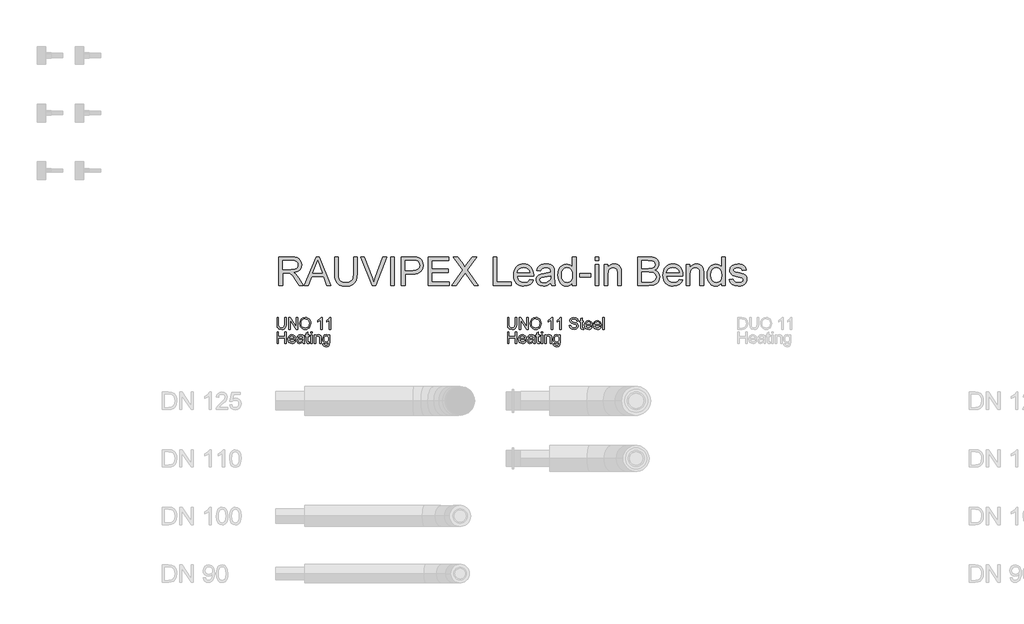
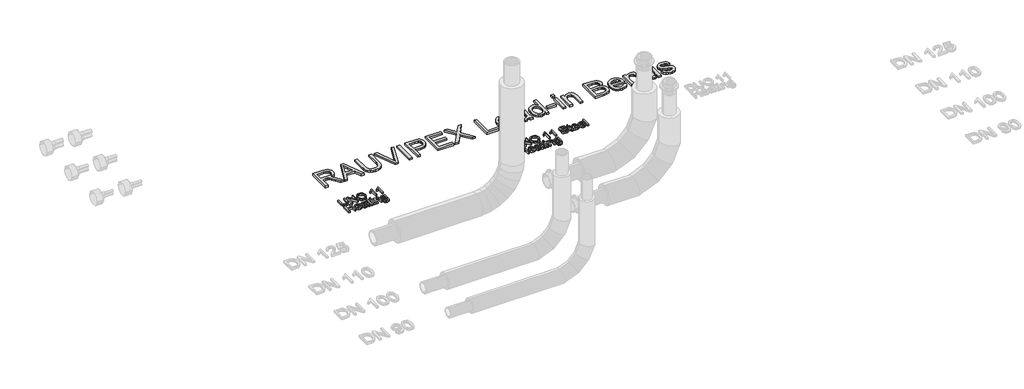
# One storey, part 40 of 44: 3 proxies.
"""IFC4 building model written with IfcOpenShell, lengths in millimetres."""

from ifc_helpers import new_model, si_unit, origin, origin_with_axes, place, context, project, spatial, polyline, outline, extrude, element, save

model = new_model("IFC4")

# Units and contexts
model_context = context("Model", 3, world=origin())
ifc_project = project(units=[si_unit("LENGTHUNIT", "METRE", prefix="MILLI")], contexts=[model_context])

# Site, building, storey
site = spatial("IfcSite", under=ifc_project)
building = spatial("IfcBuilding", under=site)
storey = spatial("IfcBuildingStorey", under=building, Name="REHAU Starting view", Elevation=0.0)

# Proxies
placement = place(None, origin())
element("IfcBuildingElementProxy", 1, Name="100", ObjectType="100", at=placement, inside=storey, context=model_context, shape_type="SweptSolid", body=[
    extrude(outline(polyline([(34076.9118625, 6222.431128), (34089.4689012, 6222.431128), (34089.4689012, 6164.477451), (34086.0598614, 6140.4547567), (34073.7726028, 6125.9847316), (34063.5086951, 6121.8000739), (34050.4734097, 6120.405188), (34027.529836, 6125.2612303), (34019.8901532, 6131.2055902), (34014.8011189, 6139.3265853), (34010.9874089, 6164.477451), (34010.9874089, 6222.431128), (34023.5444477, 6222.431128), (34023.5444477, 6164.9189094), (34026.0215198, 6145.7767829), (34034.5318566, 6136.2976902), (34049.2961874, 6132.9622268), (34062.067824, 6134.6115644), (34070.5597667, 6139.5595772), (34075.3238385, 6149.1980855), (34076.9118625, 6164.9189094), (34076.9118625, 6222.431128)])), origin_with_axes(), (0.0, 0.0, 1.0), 20.0),
    extrude(outline(polyline([(34111.4437191, 6121.9748178), (34111.4437191, 6222.431128), (34124.8836746, 6222.431128), (34177.3681726, 6142.8459897), (34177.3681726, 6222.431128), (34189.9252114, 6222.431128), (34189.9252114, 6121.9748178), (34176.4852558, 6121.9748178), (34124.0007578, 6201.5844816), (34124.0007578, 6121.9748178), (34111.4437191, 6121.9748178)])), origin_with_axes(), (0.0, 0.0, 1.0), 20.0),
    extrude(outline(polyline([(34207.1911397, 6170.8785977), (34210.5388658, 6193.0925389), (34220.5820443, 6209.8986147), (34235.9165921, 6220.4752221), (34255.1384264, 6224.0007578), (34268.3147332, 6222.3452889), (34280.1298766, 6217.3788819), (34289.9400631, 6209.4510249), (34297.1014993, 6198.9112058), (34301.479295, 6186.2683279), (34302.9385603, 6172.0312947), (34301.402653, 6157.6041891), (34296.794931, 6144.7835015), (34289.369846, 6134.2252883), (34279.3818499, 6126.5856055), (34267.667874, 6121.9502924), (34255.06485, 6120.405188), (34241.6862081, 6122.1127736), (34229.8036197, 6127.2355304), (34220.0179586, 6135.3105402), (34212.9300988, 6145.8748848), (34207.1911397, 6170.8785977)]), holes=[polyline([(34219.7481785, 6170.7559704), (34222.2589731, 6155.0412778), (34229.7913569, 6143.0667189), (34241.1129253, 6135.4883498), (34254.9912736, 6132.9622268), (34269.071957, 6135.5128753), (34280.4119195, 6143.1648208), (34287.889121, 6155.5072617), (34290.3815215, 6172.1293965), (34286.1140904, 6192.8534156), (34273.6428907, 6206.575414), (34255.2120028, 6211.4437191), (34241.7046022, 6209.0984714), (34230.2205526, 6202.0627282), (34222.366272, 6189.5455433), (34219.7481785, 6170.7559704)])]), origin_with_axes(), (0.0, 0.0, 1.0), 20.0),
    extrude(outline(polyline([(34401.8252406, 6121.9748178), (34389.2682018, 6121.9748178), (34389.2682018, 6200.2601064), (34377.3733507, 6191.7865578), (34364.1541243, 6185.4467247), (34364.1541243, 6197.3170505), (34382.5604868, 6209.0647488), (34393.7318367, 6222.431128), (34401.8252406, 6222.431128), (34401.8252406, 6121.9748178)])), origin_with_axes(), (0.0, 0.0, 1.0), 20.0),
    extrude(outline(polyline([(34478.7371031, 6121.9748178), (34466.1800643, 6121.9748178), (34466.1800643, 6200.2601064), (34454.2852131, 6191.7865578), (34441.0659868, 6185.4467247), (34441.0659868, 6197.3170505), (34459.4723492, 6209.0647488), (34470.6436992, 6222.431128), (34478.7371031, 6222.431128), (34478.7371031, 6121.9748178)])), origin_with_axes(), (0.0, 0.0, 1.0), 20.0),
    extrude(outline(polyline([(34010.9874089, 6000.0), (34010.9874089, 6100.4563101), (34023.5444477, 6100.4563101), (34023.5444477, 6059.6459342), (34076.9118625, 6059.6459342), (34076.9118625, 6100.4563101), (34089.4689012, 6100.4563101), (34089.4689012, 6000.0), (34076.9118625, 6000.0), (34076.9118625, 6047.0888954), (34023.5444477, 6047.0888954), (34023.5444477, 6000.0), (34010.9874089, 6000.0)])), origin_with_axes(), (0.0, 0.0, 1.0), 20.0),
    extrude(outline(polyline([(34161.5247213, 6021.9748178), (34173.8365055, 6020.405188), (34169.4004617, 6011.1284304), (34162.321799, 6004.1938547), (34152.7599328, 5999.8712413), (34140.8742787, 5998.4303702), (34126.1406048, 6000.9166393), (34114.803708, 6008.3754468), (34107.5748268, 6020.3224146), (34105.1651997, 6036.2731647), (34107.5993522, 6052.7604095), (34114.9018098, 6065.0905877), (34126.0854225, 6072.7793214), (34140.1630402, 6075.3422326), (34153.8022651, 6072.7854527), (34164.7007692, 6065.1151131), (34171.846877, 6052.8094604), (34174.2289129, 6036.3467411), (34174.1553365, 6032.9622268), (34117.7222385, 6032.9622268), (34119.8958079, 6023.5628418), (34124.9449883, 6016.6527916), (34132.2321175, 6012.4037546), (34141.1195333, 6010.9874089), (34153.4313175, 6013.6116338), (34161.5247213, 6021.9748178)]), holes=[polyline([(34117.7222385, 6045.5192655), (34161.6718741, 6045.5192655), (34156.6441535, 6056.8990819), (34149.3233018, 6061.3136659), (34140.1139892, 6062.7851938), (34124.6506827, 6058.088567), (34119.7854433, 6052.5979283), (34117.7222385, 6045.5192655)])]), origin_with_axes(), (0.0, 0.0, 1.0), 20.0),
    extrude(outline(polyline([(34233.8748471, 6009.4177791), (34221.697953, 6000.9074423), (34208.2457347, 5998.4303702), (34197.7519008, 5999.9202922), (34190.0110505, 6004.3900585), (34185.2377816, 6011.1774813), (34183.646692, 6019.6203731), (34186.0501877, 6029.5531869), (34192.3654953, 6036.7636741), (34201.157875, 6040.8839524), (34212.0226566, 6042.7724133), (34233.8012707, 6047.0888954), (34233.8748471, 6049.8847985), (34230.4167563, 6059.1554248), (34216.5353424, 6062.7851938), (34203.8311508, 6060.3694354), (34197.7733606, 6051.7977849), (34185.2163218, 6053.3674148), (34190.6487126, 6065.6301479), (34201.5870706, 6072.8161096), (34218.1540231, 6075.3422326), (34233.372075, 6073.1104152), (34241.968251, 6067.5063461), (34245.8187492, 6058.9837466), (34246.4318858, 6047.9963376), (34246.4318858, 6032.3736156), (34247.069548, 6010.5582133), (34249.5711455, 6000.0), (34237.0141068, 6000.0), (34233.8748471, 6009.4177791)]), holes=[polyline([(34233.8748471, 6034.5318566), (34213.6168119, 6030.6813584), (34202.8133439, 6028.6457447), (34197.9205134, 6025.3348067), (34196.2037308, 6020.5032899), (34199.9438644, 6013.7097357), (34210.9190106, 6010.9874089), (34223.6232021, 6013.9917785), (34231.8147079, 6021.2635793), (34233.8012707, 6030.975664), (34233.8748471, 6034.5318566)])]), origin_with_axes(), (0.0, 0.0, 1.0), 20.0),
    extrude(outline(polyline([(34290.3815215, 6010.4723741), (34291.9511514, 5999.632118), (34282.5578978, 5998.4303702), (34272.0364727, 6000.5150348), (34266.7880229, 6005.9842138), (34265.267444, 6020.2335097), (34265.267444, 6061.215564), (34255.8496649, 6061.215564), (34255.8496649, 6073.7726028), (34265.267444, 6073.7726028), (34265.267444, 6091.7007187), (34277.8244828, 6099.082884), (34277.8244828, 6073.7726028), (34290.3815215, 6073.7726028), (34290.3815215, 6061.215564), (34277.8244828, 6061.215564), (34277.8244828, 6020.6013917), (34278.4866703, 6014.1266686), (34280.6326487, 6011.8335375), (34284.9123425, 6010.9874089), (34290.3815215, 6010.4723741)])), origin_with_axes(), (0.0, 0.0, 1.0), 20.0),
    extrude(outline(polyline([(34302.9385603, 6087.8992714), (34302.9385603, 6100.4563101), (34315.4955991, 6100.4563101), (34315.4955991, 6087.8992714), (34302.9385603, 6087.8992714)])), origin_with_axes(), (0.0, 0.0, 1.0), 20.0),
    extrude(outline(polyline([(34302.9385603, 6000.0), (34302.9385603, 6073.7726028), (34315.4955991, 6073.7726028), (34315.4955991, 6000.0), (34302.9385603, 6000.0)])), origin_with_axes(), (0.0, 0.0, 1.0), 20.0),
    extrude(outline(polyline([(34334.3311572, 6000.0), (34334.3311572, 6073.7726028), (34346.888196, 6073.7726028), (34346.888196, 6063.4719069), (34356.4899161, 6072.3746512), (34369.5987778, 6075.3422326), (34381.4568408, 6072.9509996), (34389.5502447, 6066.6724803), (34393.3149038, 6057.4386422), (34393.9770914, 6045.2985363), (34393.9770914, 6000.0), (34381.4200526, 6000.0), (34381.4200526, 6043.6062792), (34379.9730501, 6054.7163154), (34374.8594904, 6060.5901646), (34366.2387889, 6062.7851938), (34352.6148924, 6057.8555751), (34348.3198701, 6050.712533), (34346.888196, 6039.1426443), (34346.888196, 6000.0), (34334.3311572, 6000.0)])), origin_with_axes(), (0.0, 0.0, 1.0), 20.0),
    extrude(outline(polyline([(34408.10376, 5993.7214806), (34420.6607988, 5992.1518508), (34424.7320262, 5985.5299749), (34436.9211829, 5982.7340717), (34449.7725273, 5985.8978569), (34455.9038939, 5994.7760757), (34456.7622852, 6009.4177791), (34447.9208546, 6002.3544448), (34437.1419121, 6000.0), (34424.1955316, 6002.7407209), (34414.5416949, 6010.9628835), (34408.5360213, 6023.0171502), (34406.5341301, 6037.2541834), (34410.127111, 6056.7151409), (34420.5259087, 6070.4861903), (34436.5287755, 6075.3422326), (34447.7307822, 6072.5953804), (34456.7622852, 6064.3548237), (34456.7622852, 6073.7726028), (34469.319324, 6073.7726028), (34469.319324, 6010.0799667), (34465.8857587, 5985.6893904), (34455.0087144, 5974.3463622), (34436.6759283, 5970.1770329), (34424.9926092, 5971.6454952), (34415.7924937, 5976.0508821), (34409.8910533, 5983.4054563), (34408.10376, 5993.7214806)]), holes=[polyline([(34419.0911689, 6038.1125747), (34420.4308725, 6026.5948026), (34424.4499833, 6018.6761426), (34430.4924451, 6014.0868147), (34437.9022016, 6012.5570388), (34445.2567758, 6014.0776177), (34451.3298944, 6018.6393544), (34455.4041875, 6026.4568468), (34456.7622852, 6037.7446927), (34455.3643336, 6048.6309341), (34451.1704789, 6056.4698863), (34445.0084555, 6061.2063669), (34437.7059979, 6062.7851938), (34430.5353646, 6061.2308924), (34424.5235597, 6056.5679881), (34420.4492666, 6048.8455319), (34419.0911689, 6038.1125747)])]), origin_with_axes(), (0.0, 0.0, 1.0), 20.0),
])
element("IfcBuildingElementProxy", 2, Name="100", ObjectType="100", at=placement, inside=storey, context=model_context, shape_type="SweptSolid", body=[
    extrude(outline(polyline([(36076.9118625, 6222.431128), (36089.4689012, 6222.431128), (36089.4689012, 6164.477451), (36086.0598614, 6140.4547567), (36073.7726028, 6125.9847316), (36063.5086951, 6121.8000739), (36050.4734097, 6120.405188), (36027.529836, 6125.2612303), (36019.8901532, 6131.2055902), (36014.8011189, 6139.3265853), (36010.9874089, 6164.477451), (36010.9874089, 6222.431128), (36023.5444477, 6222.431128), (36023.5444477, 6164.9189094), (36026.0215198, 6145.7767829), (36034.5318566, 6136.2976902), (36049.2961874, 6132.9622268), (36062.067824, 6134.6115644), (36070.5597667, 6139.5595772), (36075.3238385, 6149.1980855), (36076.9118625, 6164.9189094), (36076.9118625, 6222.431128)])), origin_with_axes(), (0.0, 0.0, 1.0), 20.0),
    extrude(outline(polyline([(36111.4437191, 6121.9748178), (36111.4437191, 6222.431128), (36124.8836746, 6222.431128), (36177.3681726, 6142.8459897), (36177.3681726, 6222.431128), (36189.9252114, 6222.431128), (36189.9252114, 6121.9748178), (36176.4852558, 6121.9748178), (36124.0007578, 6201.5844816), (36124.0007578, 6121.9748178), (36111.4437191, 6121.9748178)])), origin_with_axes(), (0.0, 0.0, 1.0), 20.0),
    extrude(outline(polyline([(36207.1911397, 6170.8785977), (36210.5388658, 6193.0925389), (36220.5820443, 6209.8986147), (36235.9165921, 6220.4752221), (36255.1384264, 6224.0007578), (36268.3147332, 6222.3452889), (36280.1298766, 6217.3788819), (36289.9400631, 6209.4510249), (36297.1014993, 6198.9112058), (36301.479295, 6186.2683279), (36302.9385603, 6172.0312947), (36301.402653, 6157.6041891), (36296.794931, 6144.7835015), (36289.369846, 6134.2252883), (36279.3818499, 6126.5856055), (36267.667874, 6121.9502924), (36255.06485, 6120.405188), (36241.6862081, 6122.1127736), (36229.8036197, 6127.2355304), (36220.0179586, 6135.3105402), (36212.9300988, 6145.8748848), (36207.1911397, 6170.8785977)]), holes=[polyline([(36219.7481785, 6170.7559704), (36222.2589731, 6155.0412778), (36229.7913569, 6143.0667189), (36241.1129253, 6135.4883498), (36254.9912736, 6132.9622268), (36269.071957, 6135.5128753), (36280.4119195, 6143.1648208), (36287.889121, 6155.5072617), (36290.3815215, 6172.1293965), (36286.1140904, 6192.8534156), (36273.6428907, 6206.575414), (36255.2120028, 6211.4437191), (36241.7046022, 6209.0984714), (36230.2205526, 6202.0627282), (36222.366272, 6189.5455433), (36219.7481785, 6170.7559704)])]), origin_with_axes(), (0.0, 0.0, 1.0), 20.0),
    extrude(outline(polyline([(36401.8252406, 6121.9748178), (36389.2682018, 6121.9748178), (36389.2682018, 6200.2601064), (36377.3733507, 6191.7865578), (36364.1541243, 6185.4467247), (36364.1541243, 6197.3170505), (36382.5604868, 6209.0647488), (36393.7318367, 6222.431128), (36401.8252406, 6222.431128), (36401.8252406, 6121.9748178)])), origin_with_axes(), (0.0, 0.0, 1.0), 20.0),
    extrude(outline(polyline([(36478.7371031, 6121.9748178), (36466.1800643, 6121.9748178), (36466.1800643, 6200.2601064), (36454.2852131, 6191.7865578), (36441.0659868, 6185.4467247), (36441.0659868, 6197.3170505), (36459.4723492, 6209.0647488), (36470.6436992, 6222.431128), (36478.7371031, 6222.431128), (36478.7371031, 6121.9748178)])), origin_with_axes(), (0.0, 0.0, 1.0), 20.0),
    extrude(outline(polyline([(36547.8008163, 6156.5066745), (36560.3578551, 6156.5066745), (36564.404557, 6143.937373), (36574.2883199, 6135.9911219), (36589.3469563, 6132.9622268), (36602.4680808, 6135.2553579), (36610.9416294, 6141.5584027), (36613.7252698, 6149.9829004), (36611.6406052, 6157.8187869), (36603.1057429, 6163.5209578), (36584.8220077, 6168.3156865), (36565.140321, 6174.5083668), (36554.4594804, 6183.8525694), (36550.940076, 6196.3360318), (36555.2933463, 6210.5485396), (36568.0098006, 6220.5794553), (36586.6246295, 6224.0007578), (36606.4902572, 6220.4200398), (36619.7340091, 6209.8986147), (36624.7126787, 6194.1777908), (36612.15564, 6194.1777908), (36609.8502461, 6201.6703207), (36605.0432547, 6207.0781861), (36587.1151388, 6211.4437191), (36569.137972, 6207.127237), (36563.4971147, 6196.7039138), (36567.4947658, 6187.9973732), (36587.9980556, 6180.9830899), (36610.2181281, 6174.680045), (36622.3704967, 6164.5019765), (36626.2823086, 6150.3017315), (36621.7818855, 6135.2798833), (36608.8324393, 6124.3169999), (36589.8374656, 6120.405188), (36567.4089266, 6124.6235682), (36553.2209443, 6137.3277598), (36547.8008163, 6156.5066745)])), origin_with_axes(), (0.0, 0.0, 1.0), 20.0),
    extrude(outline(polyline([(36670.2319443, 6132.447192), (36671.8015741, 6121.6069358), (36662.4083205, 6120.405188), (36651.8868955, 6122.4898526), (36646.6384457, 6127.9590316), (36645.1178667, 6142.2083276), (36645.1178667, 6183.1903818), (36635.7000877, 6183.1903818), (36635.7000877, 6195.7474206), (36645.1178667, 6195.7474206), (36645.1178667, 6213.6755365), (36657.6749055, 6221.0577019), (36657.6749055, 6195.7474206), (36670.2319443, 6195.7474206), (36670.2319443, 6183.1903818), (36657.6749055, 6183.1903818), (36657.6749055, 6142.5762096), (36658.3370931, 6136.1014865), (36660.4830714, 6133.8083554), (36664.7627653, 6132.9622268), (36670.2319443, 6132.447192)])), origin_with_axes(), (0.0, 0.0, 1.0), 20.0),
    extrude(outline(polyline([(36734.4396152, 6143.9496357), (36746.7513993, 6142.3800058), (36742.3153556, 6133.1032482), (36735.2366928, 6126.1686726), (36725.6748266, 6121.8460591), (36713.7891725, 6120.405188), (36699.0554986, 6122.8914571), (36687.7186018, 6130.3502646), (36680.4897206, 6142.2972324), (36678.0800935, 6158.2479826), (36680.514246, 6174.7352273), (36687.8167036, 6187.0654055), (36699.0003163, 6194.7541392), (36713.077934, 6197.3170505), (36726.717159, 6194.7602706), (36737.6156631, 6187.089931), (36744.7617708, 6174.7842783), (36747.1438067, 6158.321559), (36747.0702303, 6154.9370446), (36690.6371323, 6154.9370446), (36692.8107017, 6145.5376596), (36697.8598821, 6138.6276095), (36705.1470113, 6134.3785724), (36714.0344272, 6132.9622268), (36726.3462113, 6135.5864517), (36734.4396152, 6143.9496357)]), holes=[polyline([(36690.6371323, 6167.4940834), (36734.586768, 6167.4940834), (36729.5590474, 6178.8738998), (36722.2381957, 6183.2884837), (36713.0288831, 6184.7600117), (36697.5655765, 6180.0633849), (36692.7003371, 6174.5727461), (36690.6371323, 6167.4940834)])]), origin_with_axes(), (0.0, 0.0, 1.0), 20.0),
    extrude(outline(polyline([(36811.3514776, 6143.9496357), (36823.6632617, 6142.3800058), (36819.227218, 6133.1032482), (36812.1485553, 6126.1686726), (36802.5866891, 6121.8460591), (36790.701035, 6120.405188), (36775.9673611, 6122.8914571), (36764.6304642, 6130.3502646), (36757.401583, 6142.2972324), (36754.991956, 6158.2479826), (36757.4261085, 6174.7352273), (36764.7285661, 6187.0654055), (36775.9121788, 6194.7541392), (36789.9897964, 6197.3170505), (36803.6290214, 6194.7602706), (36814.5275255, 6187.089931), (36821.6736333, 6174.7842783), (36824.0556692, 6158.321559), (36823.9820928, 6154.9370446), (36767.5489947, 6154.9370446), (36769.7225642, 6145.5376596), (36774.7717446, 6138.6276095), (36782.0588738, 6134.3785724), (36790.9462896, 6132.9622268), (36803.2580737, 6135.5864517), (36811.3514776, 6143.9496357)]), holes=[polyline([(36767.5489947, 6167.4940834), (36811.4986304, 6167.4940834), (36806.4709098, 6178.8738998), (36799.1500581, 6183.2884837), (36789.9407455, 6184.7600117), (36774.477439, 6180.0633849), (36769.6121996, 6174.5727461), (36767.5489947, 6167.4940834)])]), origin_with_axes(), (0.0, 0.0, 1.0), 20.0),
    extrude(outline(polyline([(36836.612708, 6121.9748178), (36836.612708, 6222.431128), (36849.1697467, 6222.431128), (36849.1697467, 6121.9748178), (36836.612708, 6121.9748178)])), origin_with_axes(), (0.0, 0.0, 1.0), 20.0),
    extrude(outline(polyline([(36010.9874089, 6000.0), (36010.9874089, 6100.4563101), (36023.5444477, 6100.4563101), (36023.5444477, 6059.6459342), (36076.9118625, 6059.6459342), (36076.9118625, 6100.4563101), (36089.4689012, 6100.4563101), (36089.4689012, 6000.0), (36076.9118625, 6000.0), (36076.9118625, 6047.0888954), (36023.5444477, 6047.0888954), (36023.5444477, 6000.0), (36010.9874089, 6000.0)])), origin_with_axes(), (0.0, 0.0, 1.0), 20.0),
    extrude(outline(polyline([(36161.5247213, 6021.9748178), (36173.8365055, 6020.405188), (36169.4004617, 6011.1284304), (36162.321799, 6004.1938547), (36152.7599328, 5999.8712413), (36140.8742787, 5998.4303702), (36126.1406048, 6000.9166393), (36114.803708, 6008.3754468), (36107.5748268, 6020.3224146), (36105.1651997, 6036.2731647), (36107.5993522, 6052.7604095), (36114.9018098, 6065.0905877), (36126.0854225, 6072.7793214), (36140.1630402, 6075.3422326), (36153.8022651, 6072.7854527), (36164.7007692, 6065.1151131), (36171.846877, 6052.8094604), (36174.2289129, 6036.3467411), (36174.1553365, 6032.9622268), (36117.7222385, 6032.9622268), (36119.8958079, 6023.5628418), (36124.9449883, 6016.6527916), (36132.2321175, 6012.4037546), (36141.1195333, 6010.9874089), (36153.4313175, 6013.6116338), (36161.5247213, 6021.9748178)]), holes=[polyline([(36117.7222385, 6045.5192655), (36161.6718741, 6045.5192655), (36156.6441535, 6056.8990819), (36149.3233018, 6061.3136659), (36140.1139892, 6062.7851938), (36124.6506827, 6058.088567), (36119.7854433, 6052.5979283), (36117.7222385, 6045.5192655)])]), origin_with_axes(), (0.0, 0.0, 1.0), 20.0),
    extrude(outline(polyline([(36233.8748471, 6009.4177791), (36221.697953, 6000.9074423), (36208.2457347, 5998.4303702), (36197.7519008, 5999.9202922), (36190.0110505, 6004.3900585), (36185.2377816, 6011.1774813), (36183.646692, 6019.6203731), (36186.0501877, 6029.5531869), (36192.3654953, 6036.7636741), (36201.157875, 6040.8839524), (36212.0226566, 6042.7724133), (36233.8012707, 6047.0888954), (36233.8748471, 6049.8847985), (36230.4167563, 6059.1554248), (36216.5353424, 6062.7851938), (36203.8311508, 6060.3694354), (36197.7733606, 6051.7977849), (36185.2163218, 6053.3674148), (36190.6487126, 6065.6301479), (36201.5870706, 6072.8161096), (36218.1540231, 6075.3422326), (36233.372075, 6073.1104152), (36241.968251, 6067.5063461), (36245.8187492, 6058.9837466), (36246.4318858, 6047.9963376), (36246.4318858, 6032.3736156), (36247.069548, 6010.5582133), (36249.5711455, 6000.0), (36237.0141068, 6000.0), (36233.8748471, 6009.4177791)]), holes=[polyline([(36233.8748471, 6034.5318566), (36213.6168119, 6030.6813584), (36202.8133439, 6028.6457447), (36197.9205134, 6025.3348067), (36196.2037308, 6020.5032899), (36199.9438644, 6013.7097357), (36210.9190106, 6010.9874089), (36223.6232021, 6013.9917785), (36231.8147079, 6021.2635793), (36233.8012707, 6030.975664), (36233.8748471, 6034.5318566)])]), origin_with_axes(), (0.0, 0.0, 1.0), 20.0),
    extrude(outline(polyline([(36290.3815215, 6010.4723741), (36291.9511514, 5999.632118), (36282.5578978, 5998.4303702), (36272.0364727, 6000.5150348), (36266.7880229, 6005.9842138), (36265.267444, 6020.2335097), (36265.267444, 6061.215564), (36255.8496649, 6061.215564), (36255.8496649, 6073.7726028), (36265.267444, 6073.7726028), (36265.267444, 6091.7007187), (36277.8244828, 6099.082884), (36277.8244828, 6073.7726028), (36290.3815215, 6073.7726028), (36290.3815215, 6061.215564), (36277.8244828, 6061.215564), (36277.8244828, 6020.6013917), (36278.4866703, 6014.1266686), (36280.6326487, 6011.8335375), (36284.9123425, 6010.9874089), (36290.3815215, 6010.4723741)])), origin_with_axes(), (0.0, 0.0, 1.0), 20.0),
    extrude(outline(polyline([(36302.9385603, 6087.8992714), (36302.9385603, 6100.4563101), (36315.4955991, 6100.4563101), (36315.4955991, 6087.8992714), (36302.9385603, 6087.8992714)])), origin_with_axes(), (0.0, 0.0, 1.0), 20.0),
    extrude(outline(polyline([(36302.9385603, 6000.0), (36302.9385603, 6073.7726028), (36315.4955991, 6073.7726028), (36315.4955991, 6000.0), (36302.9385603, 6000.0)])), origin_with_axes(), (0.0, 0.0, 1.0), 20.0),
    extrude(outline(polyline([(36334.3311572, 6000.0), (36334.3311572, 6073.7726028), (36346.888196, 6073.7726028), (36346.888196, 6063.4719069), (36356.4899161, 6072.3746512), (36369.5987778, 6075.3422326), (36381.4568408, 6072.9509996), (36389.5502447, 6066.6724803), (36393.3149038, 6057.4386422), (36393.9770914, 6045.2985363), (36393.9770914, 6000.0), (36381.4200526, 6000.0), (36381.4200526, 6043.6062792), (36379.9730501, 6054.7163154), (36374.8594904, 6060.5901646), (36366.2387889, 6062.7851938), (36352.6148924, 6057.8555751), (36348.3198701, 6050.712533), (36346.888196, 6039.1426443), (36346.888196, 6000.0), (36334.3311572, 6000.0)])), origin_with_axes(), (0.0, 0.0, 1.0), 20.0),
    extrude(outline(polyline([(36408.10376, 5993.7214806), (36420.6607988, 5992.1518508), (36424.7320262, 5985.5299749), (36436.9211829, 5982.7340717), (36449.7725273, 5985.8978569), (36455.9038939, 5994.7760757), (36456.7622852, 6009.4177791), (36447.9208546, 6002.3544448), (36437.1419121, 6000.0), (36424.1955316, 6002.7407209), (36414.5416949, 6010.9628835), (36408.5360213, 6023.0171502), (36406.5341301, 6037.2541834), (36410.127111, 6056.7151409), (36420.5259087, 6070.4861903), (36436.5287755, 6075.3422326), (36447.7307822, 6072.5953804), (36456.7622852, 6064.3548237), (36456.7622852, 6073.7726028), (36469.319324, 6073.7726028), (36469.319324, 6010.0799667), (36465.8857587, 5985.6893904), (36455.0087144, 5974.3463622), (36436.6759283, 5970.1770329), (36424.9926092, 5971.6454952), (36415.7924937, 5976.0508821), (36409.8910533, 5983.4054563), (36408.10376, 5993.7214806)]), holes=[polyline([(36419.0911689, 6038.1125747), (36420.4308725, 6026.5948026), (36424.4499833, 6018.6761426), (36430.4924451, 6014.0868147), (36437.9022016, 6012.5570388), (36445.2567758, 6014.0776177), (36451.3298944, 6018.6393544), (36455.4041875, 6026.4568468), (36456.7622852, 6037.7446927), (36455.3643336, 6048.6309341), (36451.1704789, 6056.4698863), (36445.0084555, 6061.2063669), (36437.7059979, 6062.7851938), (36430.5353646, 6061.2308924), (36424.5235597, 6056.5679881), (36420.4492666, 6048.8455319), (36419.0911689, 6038.1125747)])]), origin_with_axes(), (0.0, 0.0, 1.0), 20.0),
])
element("IfcBuildingElementProxy", 3, Name="250", ObjectType="250", at=placement, inside=storey, context=model_context, shape_type="SweptSolid", body=[
    extrude(outline(polyline([(34027.4685223, 6500.0), (34027.4685223, 6751.1407754), (34135.6871426, 6751.1407754), (34164.7728128, 6749.4469854), (34185.9336917, 6744.3656153), (34201.4000639, 6734.9846244), (34213.402214, 6720.3919719), (34221.1047433, 6702.2967763), (34223.6722531, 6682.4081559), (34219.4186175, 6657.6680918), (34206.6577108, 6637.1586705), (34185.0063225, 6622.121494), (34154.0812423, 6613.7981638), (34171.9235191, 6600.370471), (34197.3686904, 6568.0581691), (34239.2459242, 6500.0), (34202.764293, 6500.0), (34170.0841091, 6552.0553023), (34146.4783477, 6586.5135825), (34129.8930011, 6602.7923608), (34114.9631235, 6608.7704432), (34096.7529647, 6609.8740892), (34058.8611192, 6609.8740892), (34058.8611192, 6500.0), (34027.4685223, 6500.0)]), holes=[polyline([(34058.8611192, 6641.2666861), (34129.1265803, 6641.2666861), (34164.964418, 6645.7119269), (34176.7519703, 6651.4907399), (34185.3205551, 6659.9366974), (34190.5398809, 6670.153087), (34192.2796561, 6681.2431963), (34188.961054, 6696.5562843), (34179.0052475, 6708.8956596), (34161.8757421, 6717.0350487), (34137.0360432, 6719.7481785), (34058.8611192, 6719.7481785), (34058.8611192, 6641.2666861)])]), origin_with_axes(), (0.0, 0.0, 1.0), 20.0),
    extrude(outline(polyline([(34249.3626791, 6500.0), (34349.6105227, 6751.1407754), (34376.3432811, 6751.1407754), (34476.5911248, 6500.0), (34443.4204315, 6500.0), (34414.6643222, 6578.4814923), (34311.2281679, 6578.4814923), (34282.5333723, 6500.0), (34249.3626791, 6500.0)]), holes=[polyline([(34322.7551371, 6609.8740892), (34403.1986667, 6609.8740892), (34380.573924, 6671.6169507), (34362.9769019, 6719.7481785), (34347.3419171, 6677.0125533), (34322.7551371, 6609.8740892)])]), origin_with_axes(), (0.0, 0.0, 1.0), 20.0),
    extrude(outline(polyline([(34674.9408338, 6751.1407754), (34706.3334307, 6751.1407754), (34706.3334307, 6606.2565829), (34704.2027809, 6572.3271331), (34697.8108312, 6546.1998472), (34685.8699948, 6526.0429796), (34667.0926846, 6510.0247844), (34641.4329154, 6499.5631401), (34608.844702, 6496.0759254), (34576.96926, 6499.1109518), (34551.4857676, 6508.2160312), (34532.3865607, 6523.076931), (34519.663975, 6543.3794186), (34512.5132687, 6570.6103504), (34510.1297, 6606.2565829), (34510.1297, 6751.1407754), (34541.5222969, 6751.1407754), (34541.5222969, 6607.3602289), (34543.070467, 6579.1482784), (34547.7149772, 6559.5049127), (34556.1302778, 6545.9009431), (34568.9908192, 6535.8071809), (34585.7601068, 6529.5531869), (34605.9016461, 6527.4685223), (34637.8307376, 6531.5918663), (34659.0605944, 6543.9618984), (34666.0081991, 6554.1093101), (34670.970774, 6568.0581691), (34674.9408338, 6607.3602289), (34674.9408338, 6751.1407754)])), origin_with_axes(), (0.0, 0.0, 1.0), 20.0),
    extrude(outline(polyline([(34835.460011, 6500.0), (34735.5187357, 6751.1407754), (34769.1186246, 6751.1407754), (34836.011834, 6570.2041474), (34849.5621542, 6529.4305596), (34862.9285334, 6570.2041474), (34930.0056838, 6751.1407754), (34963.6055727, 6751.1407754), (34867.8949403, 6500.0), (34835.460011, 6500.0)])), origin_with_axes(), (0.0, 0.0, 1.0), 20.0),
    extrude(outline(polyline([(34996.7149523, 6500.0), (34996.7149523, 6751.1407754), (35028.1075492, 6751.1407754), (35028.1075492, 6500.0), (34996.7149523, 6500.0)])), origin_with_axes(), (0.0, 0.0, 1.0), 20.0),
    extrude(outline(polyline([(35090.892743, 6500.0), (35090.892743, 6751.1407754), (35183.9668878, 6751.1407754), (35221.4908513, 6748.7495424), (35238.2218179, 6744.281309), (35251.9944001, 6737.0079754), (35263.0845094, 6726.5999806), (35271.7680573, 6712.7277637), (35277.3782578, 6696.3646791), (35279.2483246, 6678.4840813), (35274.1976113, 6648.8849091), (35259.0454717, 6624.221487), (35246.911114, 6614.5109352), (35230.7108938, 6607.5748268), (35210.4448112, 6603.4131617), (35186.1128661, 6602.02594), (35122.28534, 6602.02594), (35122.28534, 6500.0), (35090.892743, 6500.0)]), holes=[polyline([(35122.28534, 6633.4185369), (35187.9522761, 6633.4185369), (35215.7886804, 6636.3002792), (35234.1827802, 6644.9455061), (35244.4374908, 6658.817723), (35247.8557276, 6677.3804353), (35245.8400409, 6691.4825785), (35239.7929806, 6703.3774297), (35230.4656392, 6712.3292249), (35218.609109, 6717.6022001), (35187.2165121, 6719.7481785), (35122.28534, 6719.7481785), (35122.28534, 6633.4185369)])]), origin_with_axes(), (0.0, 0.0, 1.0), 20.0),
    extrude(outline(polyline([(35322.4131453, 6500.0), (35322.4131453, 6751.1407754), (35502.9205776, 6751.1407754), (35502.9205776, 6719.7481785), (35353.8057423, 6719.7481785), (35353.8057423, 6645.1907608), (35495.0724284, 6645.1907608), (35495.0724284, 6613.7981638), (35353.8057423, 6613.7981638), (35353.8057423, 6531.3925969), (35506.8446522, 6531.3925969), (35506.8446522, 6500.0), (35322.4131453, 6500.0)])), origin_with_axes(), (0.0, 0.0, 1.0), 20.0),
    extrude(outline(polyline([(35526.4650253, 6500.0), (35623.2793037, 6636.8521022), (35542.1613238, 6751.1407754), (35579.8079146, 6751.1407754), (35625.4865957, 6686.8227399), (35640.8763258, 6661.7454505), (35658.9025436, 6687.2519355), (35704.0907153, 6751.1407754), (35742.2891292, 6751.1407754), (35661.1711492, 6636.4842202), (35757.9854276, 6500.0), (35720.3388368, 6500.0), (35655.8368603, 6590.9894801), (35642.4091675, 6609.8740892), (35627.632574, 6589.1500702), (35564.6634392, 6500.0), (35526.4650253, 6500.0)])), origin_with_axes(), (0.0, 0.0, 1.0), 20.0),
    extrude(outline(polyline([(35887.4798899, 6500.0), (35887.4798899, 6751.1407754), (35918.8724868, 6751.1407754), (35918.8724868, 6531.3925969), (36044.4428745, 6531.3925969), (36044.4428745, 6500.0), (35887.4798899, 6500.0)])), origin_with_axes(), (0.0, 0.0, 1.0), 20.0),
    extrude(outline(polyline([(36204.9620518, 6554.9370446), (36235.741512, 6551.01297), (36224.6514027, 6527.8210759), (36206.9547459, 6510.4846369), (36183.0500804, 6499.6781033), (36153.3359451, 6496.0759254), (36133.8573599, 6497.6298436), (36116.5017603, 6502.2915983), (36101.2691465, 6510.0611894), (36088.1595183, 6520.9386169), (36077.6173999, 6534.6211446), (36070.0873153, 6550.8060364), (36065.5692645, 6569.4932921), (36064.0632476, 6590.6829118), (36065.5845929, 6612.591051), (36070.1486289, 6631.9010237), (36077.7553556, 6648.6128297), (36088.404773, 6662.7264692), (36101.4799122, 6673.9392058), (36116.3638046, 6681.9483034), (36133.0564501, 6686.753762), (36151.5578488, 6688.3555815), (36169.4633553, 6686.7575941), (36185.6559112, 6681.9636319), (36200.1355166, 6673.9736948), (36212.9021715, 6662.7877829), (36223.3235786, 6648.7048002), (36230.7674409, 6632.023651), (36235.2337582, 6612.7443352), (36236.7225307, 6590.8668528), (36236.5385897, 6582.4055669), (36095.4558445, 6582.4055669), (36100.8897682, 6558.9071045), (36113.5127191, 6541.6319791), (36131.7305421, 6531.0093865), (36153.9490818, 6527.4685223), (36170.6570557, 6529.1086629), (36184.728542, 6534.0290846), (36196.1635407, 6542.5363557), (36204.9620518, 6554.9370446)]), holes=[polyline([(36095.4558445, 6613.7981638), (36205.3299338, 6613.7981638), (36201.0839624, 6630.3835105), (36192.7606323, 6642.2477048), (36174.458503, 6653.2841647), (36151.4352215, 6656.9629846), (36130.2743425, 6654.0275929), (36112.7769551, 6645.2214176), (36100.6138567, 6631.4948207), (36095.4558445, 6613.7981638)])]), origin_with_axes(), (0.0, 0.0, 1.0), 20.0),
    extrude(outline(polyline([(36385.8373661, 6523.5444477), (36370.8385105, 6510.6839063), (36355.395131, 6502.2686056), (36339.1546737, 6497.6240954), (36321.7645852, 6496.0759254), (36295.5300004, 6499.8007306), (36276.1778747, 6510.9751462), (36264.2447024, 6527.9437032), (36260.2669784, 6549.0509327), (36261.7691632, 6562.0647583), (36266.2757176, 6573.8829674), (36282.0639866, 6591.9091851), (36304.0449358, 6602.209881), (36331.2068898, 6606.9310333), (36385.6534251, 6617.7222385), (36385.8373661, 6624.7119964), (36383.6760593, 6638.722169), (36377.1921392, 6647.8885621), (36362.6914572, 6654.694379), (36342.4886043, 6656.9629846), (36323.7879362, 6655.4531356), (36310.7281254, 6650.9235885), (36301.8223154, 6642.5466089), (36295.5836499, 6629.4944623), (36264.191053, 6633.4185369), (36269.640305, 6650.5863634), (36277.77203, 6664.0753698), (36289.3449844, 6674.3913941), (36305.1179249, 6682.0402739), (36324.4087371, 6686.7767546), (36346.5353062, 6688.3555815), (36367.7574988, 6686.9606956), (36384.5804359, 6682.7760379), (36397.2647005, 6676.483723), (36406.0708758, 6668.7658653), (36415.6971213, 6647.4593664), (36417.229963, 6619.9908441), (36417.229963, 6580.9340389), (36418.8241183, 6526.3955332), (36425.0781122, 6500.0), (36393.6855153, 6500.0), (36385.8373661, 6523.5444477)]), holes=[polyline([(36385.8373661, 6586.3296415), (36335.1922781, 6576.703396), (36308.1836082, 6571.6143617), (36295.9515319, 6563.3370168), (36291.6595753, 6551.2582247), (36293.9971588, 6541.923219), (36301.0099093, 6534.2743392), (36312.5445427, 6529.1699765), (36328.4477748, 6527.4685223), (36345.3090329, 6529.3462533), (36360.2082537, 6534.9794464), (36372.2870459, 6543.2797839), (36380.6870181, 6553.1589483), (36384.4118233, 6563.3370168), (36385.6534251, 6577.43916), (36385.8373661, 6586.3296415)])]), origin_with_axes(), (0.0, 0.0, 1.0), 20.0),
    extrude(outline(polyline([(36574.1929476, 6500.0), (36574.1929476, 6529.6145006), (36564.8004604, 6514.9413739), (36553.4229433, 6504.4605692), (36540.0603962, 6498.1720863), (36524.7128192, 6496.0759254), (36504.4179958, 6499.1109518), (36485.8399551, 6508.2160312), (36470.1129998, 6522.7550342), (36458.3714328, 6542.0918316), (36451.0597781, 6565.4446741), (36448.6225599, 6592.0318125), (36450.8681729, 6618.2893899), (36457.6050119, 6642.0024501), (36468.8254128, 6661.8220926), (36484.5217113, 6676.3994167), (36503.5059551, 6685.3665403), (36524.5901919, 6688.3555815), (36539.9492652, 6686.2172674), (36553.5302422, 6679.8023251), (36565.041883, 6669.969146), (36574.1929476, 6657.5761213), (36574.1929476, 6751.1407754), (36605.5855445, 6751.1407754), (36605.5855445, 6500.0), (36574.1929476, 6500.0)]), holes=[polyline([(36480.0151568, 6592.1544398), (36483.556021, 6563.7585483), (36494.1786136, 6543.5633596), (36509.614329, 6531.4922316), (36527.5945615, 6527.4685223), (36545.5671298, 6531.3082906), (36560.6119706, 6542.8275956), (36570.7977033, 6562.2410351), (36574.1929476, 6589.7632068), (36570.7363897, 6619.8528883), (36560.3667159, 6640.7148632), (36544.9386648, 6652.9009542), (36526.3069745, 6656.9629846), (36508.142801, 6653.0619026), (36493.2589086, 6641.3586566), (36483.3260948, 6621.2554385), (36480.0151568, 6592.1544398)])]), origin_with_axes(), (0.0, 0.0, 1.0), 20.0),
    extrude(outline(polyline([(36636.9781414, 6574.5574177), (36636.9781414, 6605.9500146), (36735.0800068, 6605.9500146), (36735.0800068, 6574.5574177), (36636.9781414, 6574.5574177)])), origin_with_axes(), (0.0, 0.0, 1.0), 20.0),
    extrude(outline(polyline([(36770.3966783, 6719.7481785), (36770.3966783, 6751.1407754), (36801.7892753, 6751.1407754), (36801.7892753, 6719.7481785), (36770.3966783, 6719.7481785)])), origin_with_axes(), (0.0, 0.0, 1.0), 20.0),
    extrude(outline(polyline([(36770.3966783, 6500.0), (36770.3966783, 6684.4315069), (36801.7892753, 6684.4315069), (36801.7892753, 6500.0), (36770.3966783, 6500.0)])), origin_with_axes(), (0.0, 0.0, 1.0), 20.0),
    extrude(outline(polyline([(36848.8781706, 6500.0), (36848.8781706, 6684.4315069), (36880.2707676, 6684.4315069), (36880.2707676, 6658.6797673), (36891.1769359, 6671.662936), (36904.2750678, 6680.936628), (36919.5651632, 6686.5008431), (36937.0472222, 6688.3555815), (36952.5212586, 6686.8610609), (36966.6923796, 6682.3774991), (36978.5105887, 6675.4643833), (36986.9258893, 6666.6812006), (36996.337537, 6643.5966055), (36997.993006, 6613.2463408), (36997.993006, 6500.0), (36966.6004091, 6500.0), (36966.6004091, 6609.0156979), (36962.9829028, 6636.7907885), (36957.9781748, 6645.0604692), (36950.1990035, 6651.4754115), (36928.6472499, 6656.9629846), (36910.2608144, 6653.8819729), (36894.5875085, 6644.6389378), (36883.8499528, 6626.7813326), (36880.2707676, 6597.8566107), (36880.2707676, 6500.0), (36848.8781706, 6500.0)])), origin_with_axes(), (0.0, 0.0, 1.0), 20.0),
    extrude(outline(polyline([(37143.1837668, 6500.0), (37143.1837668, 6751.1407754), (37239.0170265, 6751.1407754), (37265.3742386, 6749.2937012), (37285.9526378, 6743.7524786), (37301.7255783, 6734.379152), (37313.6664147, 6721.0357654), (37321.185003, 6705.339467), (37323.6911991, 6688.9074045), (37321.5835418, 6673.7859217), (37315.26057, 6659.5688154), (37304.6762985, 6647.1298054), (37289.7847419, 6637.3426115), (37307.5733692, 6628.0535912), (37320.7174863, 6613.9207912), (37328.8338828, 6595.879245), (37331.5393483, 6574.863986), (37329.6922741, 6557.3512702), (37324.1510516, 6541.110813), (37315.8813709, 6527.2999097), (37305.8489223, 6517.0758559), (37278.5336842, 6504.3226134), (37238.2812625, 6500.0), (37143.1837668, 6500.0)]), holes=[polyline([(37174.5763637, 6649.1148354), (37231.9046413, 6649.1148354), (37265.3819029, 6651.8126367), (37277.1004772, 6656.4648111), (37285.5234421, 6663.4315764), (37290.6048121, 6672.6056336), (37292.2986022, 6683.8796839), (37290.7197753, 6694.8241733), (37285.9832946, 6704.3584483), (37278.3037579, 6711.8003945), (37267.8957632, 6716.4678973), (37227.551371, 6719.7481785), (37174.5763637, 6719.7481785), (37174.5763637, 6649.1148354)]), polyline([(37174.5763637, 6531.3925969), (37238.9557129, 6531.3925969), (37262.2549059, 6532.6188702), (37281.9672495, 6539.455344), (37295.0270603, 6553.404203), (37300.1467514, 6574.5574177), (37298.6445666, 6587.6785422), (37294.1380121, 6598.9602567), (37286.2668703, 6607.7817604), (37274.6709232, 6613.5222523), (37235.8900296, 6617.7222385), (37174.5763637, 6617.7222385), (37174.5763637, 6531.3925969)])]), origin_with_axes(), (0.0, 0.0, 1.0), 20.0),
    extrude(outline(polyline([(37499.9066748, 6554.9370446), (37530.686135, 6551.01297), (37519.5960257, 6527.8210759), (37501.8993689, 6510.4846369), (37477.9947034, 6499.6781033), (37448.2805681, 6496.0759254), (37428.8019829, 6497.6298436), (37411.4463834, 6502.2915983), (37396.2137695, 6510.0611894), (37383.1041413, 6520.9386169), (37372.5620229, 6534.6211446), (37365.0319383, 6550.8060364), (37360.5138875, 6569.4932921), (37359.0078706, 6590.6829118), (37360.529216, 6612.591051), (37365.093252, 6631.9010237), (37372.6999786, 6648.6128297), (37383.349396, 6662.7264692), (37396.4245352, 6673.9392058), (37411.3084276, 6681.9483034), (37428.0010731, 6686.753762), (37446.5024718, 6688.3555815), (37464.4079783, 6686.7575941), (37480.6005342, 6681.9636319), (37495.0801396, 6673.9736948), (37507.8467945, 6662.7877829), (37518.2682017, 6648.7048002), (37525.7120639, 6632.023651), (37530.1783812, 6612.7443352), (37531.6671537, 6590.8668528), (37531.4832127, 6582.4055669), (37390.4004675, 6582.4055669), (37395.8343912, 6558.9071045), (37408.4573421, 6541.6319791), (37426.6751651, 6531.0093865), (37448.8937048, 6527.4685223), (37465.6016787, 6529.1086629), (37479.673165, 6534.0290846), (37491.1081637, 6542.5363557), (37499.9066748, 6554.9370446)]), holes=[polyline([(37390.4004675, 6613.7981638), (37500.2745568, 6613.7981638), (37496.0285854, 6630.3835105), (37487.7052553, 6642.2477048), (37469.403126, 6653.2841647), (37446.3798445, 6656.9629846), (37425.2189656, 6654.0275929), (37407.7215782, 6645.2214176), (37395.5584797, 6631.4948207), (37390.4004675, 6613.7981638)])]), origin_with_axes(), (0.0, 0.0, 1.0), 20.0),
    extrude(outline(polyline([(37563.0597506, 6500.0), (37563.0597506, 6684.4315069), (37594.4523475, 6684.4315069), (37594.4523475, 6658.6797673), (37605.3585159, 6671.662936), (37618.4566477, 6680.936628), (37633.7467432, 6686.5008431), (37651.2288021, 6688.3555815), (37666.7028386, 6686.8610609), (37680.8739596, 6682.3774991), (37692.6921687, 6675.4643833), (37701.1074693, 6666.6812006), (37710.519117, 6643.5966055), (37712.174586, 6613.2463408), (37712.174586, 6500.0), (37680.7819891, 6500.0), (37680.7819891, 6609.0156979), (37677.1644828, 6636.7907885), (37672.1597548, 6645.0604692), (37664.3805835, 6651.4754115), (37642.8288299, 6656.9629846), (37624.4423944, 6653.8819729), (37608.7690885, 6644.6389378), (37598.0315328, 6626.7813326), (37594.4523475, 6597.8566107), (37594.4523475, 6500.0), (37563.0597506, 6500.0)])), origin_with_axes(), (0.0, 0.0, 1.0), 20.0),
    extrude(outline(polyline([(37869.1375706, 6500.0), (37869.1375706, 6529.6145006), (37859.7450834, 6514.9413739), (37848.3675663, 6504.4605692), (37835.0050192, 6498.1720863), (37819.6574423, 6496.0759254), (37799.3626189, 6499.1109518), (37780.7845781, 6508.2160312), (37765.0576228, 6522.7550342), (37753.3160558, 6542.0918316), (37746.0044011, 6565.4446741), (37743.5671829, 6592.0318125), (37745.8127959, 6618.2893899), (37752.549635, 6642.0024501), (37763.7700358, 6661.8220926), (37779.4663343, 6676.3994167), (37798.4505781, 6685.3665403), (37819.5348149, 6688.3555815), (37834.8938882, 6686.2172674), (37848.4748652, 6679.8023251), (37859.986506, 6669.969146), (37869.1375706, 6657.5761213), (37869.1375706, 6751.1407754), (37900.5301675, 6751.1407754), (37900.5301675, 6500.0), (37869.1375706, 6500.0)]), holes=[polyline([(37774.9597798, 6592.1544398), (37778.500644, 6563.7585483), (37789.1232367, 6543.5633596), (37804.558952, 6531.4922316), (37822.5391846, 6527.4685223), (37840.5117529, 6531.3082906), (37855.5565936, 6542.8275956), (37865.7423264, 6562.2410351), (37869.1375706, 6589.7632068), (37865.6810127, 6619.8528883), (37855.311339, 6640.7148632), (37839.8832878, 6652.9009542), (37821.2515976, 6656.9629846), (37803.0874241, 6653.0619026), (37788.2035317, 6641.3586566), (37778.2707178, 6621.2554385), (37774.9597798, 6592.1544398)])]), origin_with_axes(), (0.0, 0.0, 1.0), 20.0),
    extrude(outline(polyline([(37935.8468391, 6554.9370446), (37967.239436, 6558.8611192), (37972.1905145, 6545.4334264), (37981.7707748, 6535.5619262), (37996.0415305, 6529.4918733), (38015.0640954, 6527.4685223), (38033.8567339, 6529.3232607), (38047.0698289, 6534.8874759), (38054.8873213, 6542.9502229), (38057.4931521, 6552.300557), (38054.8719929, 6560.3019904), (38047.0085153, 6566.4027001), (38014.6962134, 6575.3544953), (37967.423377, 6590.7135686), (37955.4595479, 6598.4314263), (37946.7913284, 6608.6478159), (37941.5260174, 6620.7112797), (37939.7709137, 6633.9703599), (37945.4117709, 6657.3615234), (37960.8015011, 6675.234457), (37980.7590993, 6684.5234774), (38007.7677691, 6688.3555815), (38028.2005483, 6686.8150757), (38045.966183, 6682.1935581), (38060.2522671, 6674.9432171), (38070.2463946, 6665.516241), (38076.8682705, 6653.2151868), (38081.0375998, 6637.3426115), (38049.6450029, 6633.4185369), (38045.6826072, 6643.2977013), (38037.8421222, 6650.7396475), (38026.0469058, 6655.4071503), (38010.2203158, 6656.9629846), (37992.194098, 6655.4761282), (37980.1766195, 6651.015559), (37973.4167878, 6644.5776241), (37971.1635106, 6637.1586705), (37974.9036442, 6628.0229343), (37986.6145544, 6621.0944901), (38013.653881, 6614.4113005), (38059.7311009, 6599.634707), (38071.9018636, 6592.568307), (38081.1295703, 6582.8960762), (38086.9467044, 6570.5873578), (38088.8857491, 6555.6114949), (38086.6094792, 6540.1297943), (38079.7806697, 6525.5677987), (38068.6599035, 6513.067475), (38053.5077639, 6503.7707905), (38035.2056346, 6497.9996417), (38014.6348997, 6496.0759254), (37982.9817197, 6499.7854022), (37959.8817961, 6510.9138325), (37944.4614091, 6529.3385891), (37935.8468391, 6554.9370446)])), origin_with_axes(), (0.0, 0.0, 1.0), 20.0),
])

save(model, "model.ifc")
